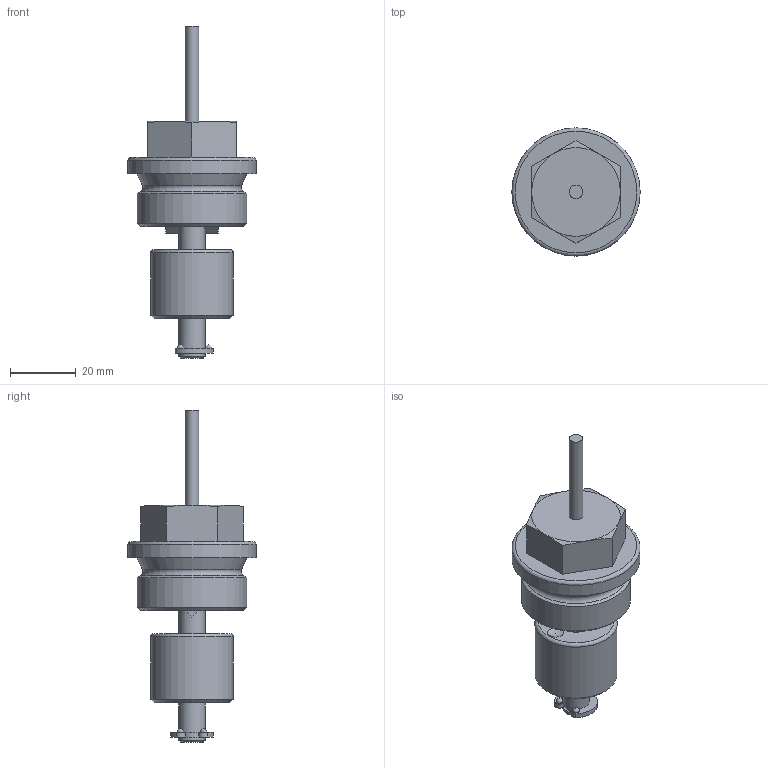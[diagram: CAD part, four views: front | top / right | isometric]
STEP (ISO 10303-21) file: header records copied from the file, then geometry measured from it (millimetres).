
FILE_DESCRIPTION(/* description */ ('Katalogmodell Elobau'),/* implementation_level */ '2;1');
FILE_NAME(/* name */ '2040_0_A.stp',/* time_stamp */ '2014-11-17T07:29:48+01:00',/* author */ ('Elobau GmbH & Co. KG'),/* organization */ ('Elobau GmbH & Co. KG'),/* preprocessor_version */ 'ST-DEVELOPER v15',/* originating_system */ 'SIEMENS PLM Software NX 8.5',/* authorisation */ '');
FILE_SCHEMA (('AUTOMOTIVE_DESIGN { 1 0 10303 214 3 1 1 1 }'));
Length unit declared in the file: millimetre
Products named in the file (1): 2040.0_A
Bounding box: 39 x 39 x 101 mm (x, y, z)
Volume: 37286.6 mm3; surface area: 10249.8 mm2
Topology: 2 solids, 2 shells, 64 faces, 144 edges, 89 vertices
Faces by surface type: plane 28, cylinder 16, cone 12, sphere 4, bspline 3, torus 1
Full cylindrical faces by diameter (mm): 4.1 x1, 4.982 x1, 8 x2, 10 x1, 25 x1, 33.249 x1, 39 x1
Entity records: 1689 total; most frequent: CARTESIAN_POINT 359, DIRECTION 292, ORIENTED_EDGE 224, AXIS2_PLACEMENT_3D 132, EDGE_CURVE 112, EDGE_LOOP 93, VERTEX_POINT 80, ADVANCED_FACE 64
